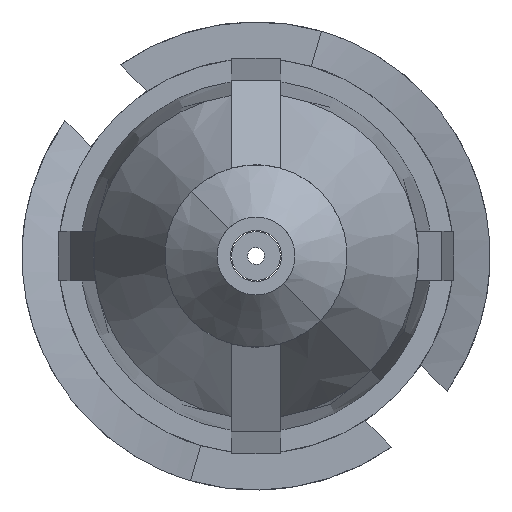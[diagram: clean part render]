
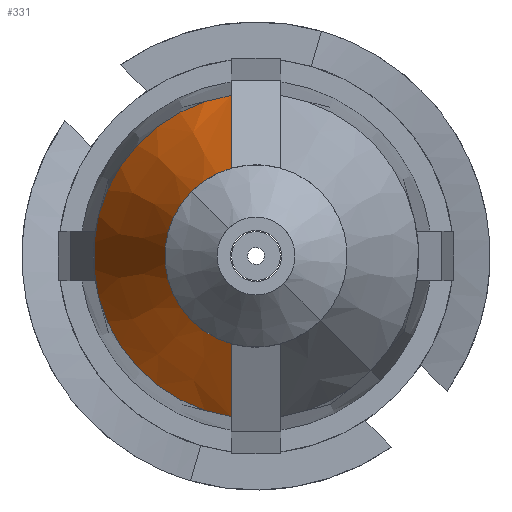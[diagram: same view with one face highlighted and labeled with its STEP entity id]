
A CAD part, left-side view. The second image highlights one B-rep face of the part: STEP entity #331.
In plain terms, the highlighted conical face has half-angle 23.742 degrees and reference radius 2.674 mm.
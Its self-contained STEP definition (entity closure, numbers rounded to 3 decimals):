
#48 = CARTESIAN_POINT ( 'NONE',  ( -10.41, 0.82, -14.079 ) ) ;
#117 = CIRCLE ( 'NONE', #1636, 2.674 ) ;
#251 = VERTEX_POINT ( 'NONE', #2550 ) ;
#316 = ORIENTED_EDGE ( 'NONE', *, *, #1861, .T. ) ;
#331 = ADVANCED_FACE ( 'NONE', ( #3509 ), #2416, .T. ) ;
#426 = DIRECTION ( 'NONE',  ( 0., -0.707, -0.707 ) ) ;
#499 = CARTESIAN_POINT ( 'NONE',  ( -13.08, 0.41, -11.437 ) ) ;
#607 = CARTESIAN_POINT ( 'NONE',  ( -13.08, 0.41, -11.437 ) ) ;
#653 = VERTEX_POINT ( 'NONE', #741 ) ;
#741 = CARTESIAN_POINT ( 'NONE',  ( -10.41, 0.82, -14.079 ) ) ;
#772 = ORIENTED_EDGE ( 'NONE', *, *, #3585, .F. ) ;
#792 = DIRECTION ( 'NONE',  ( 1., 0., 0. ) ) ;
#838 = AXIS2_PLACEMENT_3D ( 'NONE', #2928, #3227, #426 ) ;
#840 = EDGE_CURVE ( 'NONE', #653, #1872, #3149, .T. ) ;
#871 = VERTEX_POINT ( 'NONE', #891 ) ;
#883 = EDGE_CURVE ( 'NONE', #871, #251, #3195, .T. ) ;
#885 = DIRECTION ( 'NONE',  ( 1., 0., 0. ) ) ;
#891 = CARTESIAN_POINT ( 'NONE',  ( -10.41, 0.82, -8.794 ) ) ;
#1098 = CARTESIAN_POINT ( 'NONE',  ( -13.08, 0.82, -12.879 ) ) ;
#1165 = CARTESIAN_POINT ( 'NONE',  ( -13.08, 0.82, -9.994 ) ) ;
#1199 = ORIENTED_EDGE ( 'NONE', *, *, #840, .T. ) ;
#1375 = CARTESIAN_POINT ( 'NONE',  ( -12.193, 0.82, -13.285 ) ) ;
#1395 = CARTESIAN_POINT ( 'NONE',  ( -11.301, 0.82, -13.683 ) ) ;
#1450 = EDGE_CURVE ( 'NONE', #1872, #3340, #3004, .T. ) ;
#1547 = AXIS2_PLACEMENT_3D ( 'NONE', #607, #885, #3356 ) ;
#1636 = AXIS2_PLACEMENT_3D ( 'NONE', #2096, #2393, #2968 ) ;
#1795 = CARTESIAN_POINT ( 'NONE',  ( -12.193, 0.82, -9.588 ) ) ;
#1814 = CARTESIAN_POINT ( 'NONE',  ( -11.301, 0.82, -9.191 ) ) ;
#1861 = EDGE_CURVE ( 'NONE', #3340, #251, #2493, .T. ) ;
#1872 = VERTEX_POINT ( 'NONE', #3057 ) ;
#2024 = CARTESIAN_POINT ( 'NONE',  ( -10.41, 0.82, -8.794 ) ) ;
#2096 = CARTESIAN_POINT ( 'NONE',  ( -10.41, 0.41, -11.437 ) ) ;
#2393 = DIRECTION ( 'NONE',  ( 1., 0., 0. ) ) ;
#2416 = CONICAL_SURFACE ( 'NONE', #838, 2.674, 0.414 ) ;
#2491 = EDGE_LOOP ( 'NONE', ( #3066, #772, #1199, #3404, #316 ) ) ;
#2493 = CIRCLE ( 'NONE', #3191, 1.5 ) ;
#2550 = CARTESIAN_POINT ( 'NONE',  ( -13.08, 0.82, -9.994 ) ) ;
#2928 = CARTESIAN_POINT ( 'NONE',  ( -10.41, 0.41, -11.437 ) ) ;
#2968 = DIRECTION ( 'NONE',  ( 0., -0.707, -0.707 ) ) ;
#3004 = CIRCLE ( 'NONE', #1547, 1.5 ) ;
#3057 = CARTESIAN_POINT ( 'NONE',  ( -13.08, 0.82, -12.879 ) ) ;
#3066 = ORIENTED_EDGE ( 'NONE', *, *, #883, .F. ) ;
#3149 = B_SPLINE_CURVE_WITH_KNOTS ( 'NONE', 3,
 ( #48, #1395, #1375, #1098 ),
 .UNSPECIFIED., .F., .F.,
 ( 4, 4 ),
 ( 0., 0.003 ),
 .UNSPECIFIED. ) ;
#3191 = AXIS2_PLACEMENT_3D ( 'NONE', #499, #792, #3546 ) ;
#3195 = B_SPLINE_CURVE_WITH_KNOTS ( 'NONE', 3,
 ( #2024, #1814, #1795, #1165 ),
 .UNSPECIFIED., .F., .F.,
 ( 4, 4 ),
 ( 0., 0.003 ),
 .UNSPECIFIED. ) ;
#3215 = CARTESIAN_POINT ( 'NONE',  ( -13.08, 1.471, -10.376 ) ) ;
#3227 = DIRECTION ( 'NONE',  ( 1., 0., 0. ) ) ;
#3340 = VERTEX_POINT ( 'NONE', #3215 ) ;
#3356 = DIRECTION ( 'NONE',  ( 0., -0.707, -0.707 ) ) ;
#3404 = ORIENTED_EDGE ( 'NONE', *, *, #1450, .T. ) ;
#3509 = FACE_OUTER_BOUND ( 'NONE', #2491, .T. ) ;
#3546 = DIRECTION ( 'NONE',  ( 0., -0.707, -0.707 ) ) ;
#3585 = EDGE_CURVE ( 'NONE', #653, #871, #117, .T. ) ;
